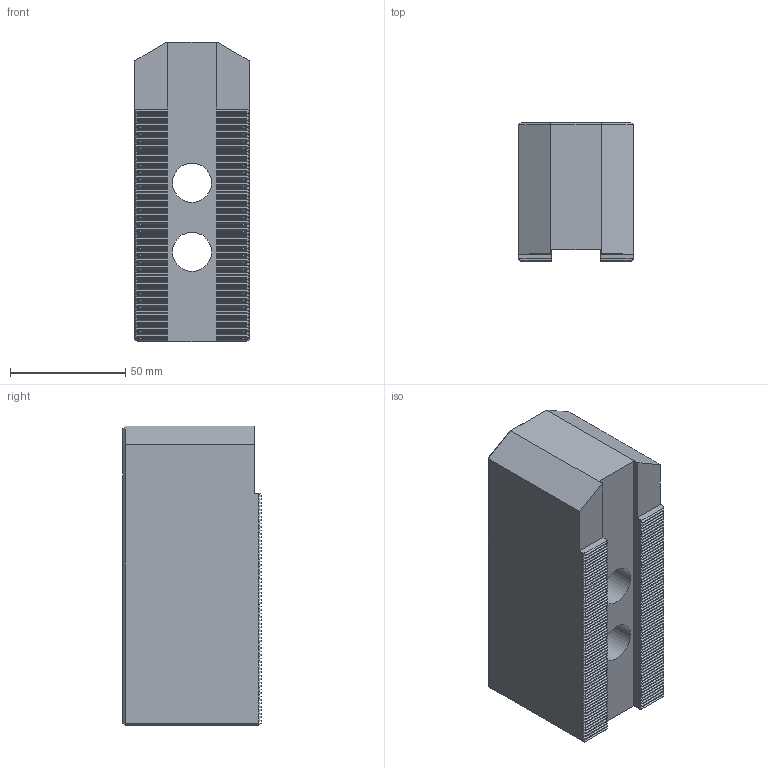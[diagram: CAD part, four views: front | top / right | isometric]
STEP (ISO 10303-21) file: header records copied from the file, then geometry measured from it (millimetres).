
FILE_DESCRIPTION(/* description */ (''),/* implementation_level */ '2;1');
FILE_NAME(/* name */ 'SC-12H60N.stp',/* time_stamp */ '2024-09-11T12:20:46+03:00',/* author */ ('KanaanMD'),/* organization */ (''),/* preprocessor_version */ 'ST-DEVELOPER v19.2',/* originating_system */ 'Autodesk Inventor 2024',/* authorisation */ '');
FILE_SCHEMA (('AUTOMOTIVE_DESIGN { 1 0 10303 214 3 1 1 }'));
Length unit declared in the file: millimetre
Products named in the file (1): SC-12H60N
Bounding box: 49.6 x 60 x 130 mm (x, y, z)
Volume: 318445.3 mm3; surface area: 42672.5 mm2
Topology: 1 solids, 1 shells, 572 faces, 1422 edges, 854 vertices
Faces by surface type: plane 566, cylinder 4, cone 2
Full cylindrical faces by diameter (mm): 17 x2, 24.5 x2
Entity records: 16313 total; most frequent: CARTESIAN_POINT 2849, ORIENTED_EDGE 2844, DIRECTION 2580, EDGE_CURVE 1422, LINE 1410, VECTOR 1410, VERTEX_POINT 854, AXIS2_PLACEMENT_3D 585
